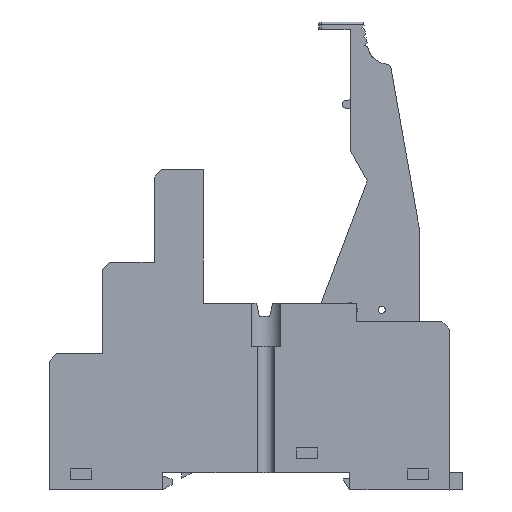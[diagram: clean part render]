
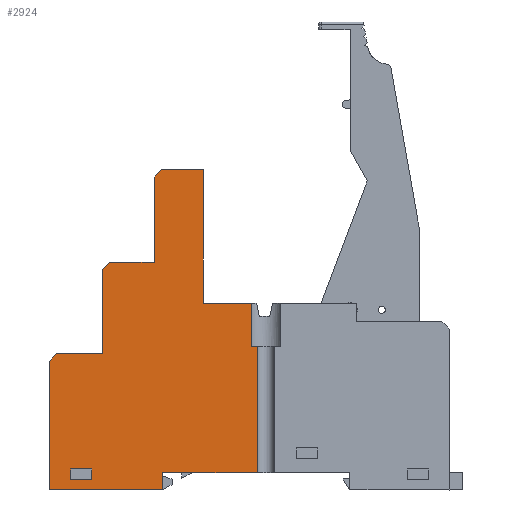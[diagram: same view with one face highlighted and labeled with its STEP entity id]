
A CAD part, front view. The second image highlights one B-rep face of the part: STEP entity #2924.
In plain terms, the highlighted planar face has unit normal (0, -1, 0).
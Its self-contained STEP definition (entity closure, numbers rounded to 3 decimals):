
#2=DIRECTION('',(0.707,0.,0.707));
#3=VECTOR('',#2,2.);
#4=CARTESIAN_POINT('',(-203.811,95.024,19.097));
#5=LINE('',#4,#3);
#6=DIRECTION('',(0.707,0.,0.707));
#7=VECTOR('',#6,2.);
#8=CARTESIAN_POINT('',(-193.811,95.024,36.497));
#9=LINE('',#8,#7);
#10=DIRECTION('',(0.707,0.,0.707));
#11=VECTOR('',#10,2.);
#12=CARTESIAN_POINT('',(-183.911,95.024,54.097));
#13=LINE('',#12,#11);
#14=DIRECTION('',(0.,0.,1.));
#15=VECTOR('',#14,24.);
#16=CARTESIAN_POINT('',(-164.311,95.024,-2.089));
#17=LINE('',#16,#15);
#27=DIRECTION('',(1.,0.,0.));
#28=VECTOR('',#27,1.166);
#29=CARTESIAN_POINT('',(-165.477,95.024,21.911));
#30=LINE('',#29,#28);
#69=DIRECTION('',(-1.,0.,0.));
#70=VECTOR('',#69,18.);
#71=CARTESIAN_POINT('',(-164.311,95.024,-2.089));
#72=LINE('',#71,#70);
#190=DIRECTION('',(0.,0.,-1.));
#191=VECTOR('',#190,8.183);
#192=CARTESIAN_POINT('',(-165.477,95.024,30.095));
#193=LINE('',#192,#191);
#276=DIRECTION('',(1.,0.,-0.002));
#277=VECTOR('',#276,9.134);
#278=CARTESIAN_POINT('',(-174.611,95.024,30.111));
#279=LINE('',#278,#277);
#297=DIRECTION('',(0.,0.,-1.));
#298=VECTOR('',#297,25.4);
#299=CARTESIAN_POINT('',(-174.611,95.024,55.511));
#300=LINE('',#299,#298);
#309=DIRECTION('',(1.,0.,0.));
#310=VECTOR('',#309,7.886);
#311=CARTESIAN_POINT('',(-182.497,95.024,55.511));
#312=LINE('',#311,#310);
#365=DIRECTION('',(0.,0.,1.));
#366=VECTOR('',#365,16.186);
#367=CARTESIAN_POINT('',(-183.911,95.024,37.911));
#368=LINE('',#367,#366);
#377=DIRECTION('',(1.,0.,0.));
#378=VECTOR('',#377,8.486);
#379=CARTESIAN_POINT('',(-192.397,95.024,37.911));
#380=LINE('',#379,#378);
#433=DIRECTION('',(0.,0.,1.));
#434=VECTOR('',#433,15.986);
#435=CARTESIAN_POINT('',(-193.811,95.024,20.511));
#436=LINE('',#435,#434);
#445=DIRECTION('',(1.,0.,0.));
#446=VECTOR('',#445,8.586);
#447=CARTESIAN_POINT('',(-202.397,95.024,20.511));
#448=LINE('',#447,#446);
#501=DIRECTION('',(0.,0.,1.));
#502=VECTOR('',#501,24.486);
#503=CARTESIAN_POINT('',(-203.811,95.024,-5.389));
#504=LINE('',#503,#502);
#521=DIRECTION('',(-1.,0.,0.));
#522=VECTOR('',#521,21.5);
#523=CARTESIAN_POINT('',(-182.311,95.024,-5.389));
#524=LINE('',#523,#522);
#545=DIRECTION('',(0.,0.,-1.));
#546=VECTOR('',#545,3.3);
#547=CARTESIAN_POINT('',(-182.311,95.024,-2.089));
#548=LINE('',#547,#546);
#2132=DIRECTION('',(1.,0.,0.));
#2133=VECTOR('',#2132,4.);
#2134=CARTESIAN_POINT('',(-199.811,95.024,
-1.389));
#2135=LINE('',#2134,#2133);
#2140=DIRECTION('',(0.,0.,-1.));
#2141=VECTOR('',#2140,2.);
#2142=CARTESIAN_POINT('',(-195.811,95.024,
-1.389));
#2143=LINE('',#2142,#2141);
#2152=DIRECTION('',(-1.,0.,0.));
#2153=VECTOR('',#2152,4.);
#2154=CARTESIAN_POINT('',(-195.811,95.024,
-3.389));
#2155=LINE('',#2154,#2153);
#2164=DIRECTION('',(0.,0.,1.));
#2165=VECTOR('',#2164,2.);
#2166=CARTESIAN_POINT('',(-199.811,95.024,
-3.389));
#2167=LINE('',#2166,#2165);
#2180=CARTESIAN_POINT('',(-164.311,95.024,
-2.089));
#2181=CARTESIAN_POINT('',(-164.311,95.024,21.911));
#2182=VERTEX_POINT('',#2180);
#2183=VERTEX_POINT('',#2181);
#2184=CARTESIAN_POINT('',(-165.477,95.024,21.911));
#2185=VERTEX_POINT('',#2184);
#2186=CARTESIAN_POINT('',(-165.477,95.024,30.095));
#2187=VERTEX_POINT('',#2186);
#2188=CARTESIAN_POINT('',(-174.611,95.024,30.111));
#2189=VERTEX_POINT('',#2188);
#2190=CARTESIAN_POINT('',(-174.611,95.024,55.511));
#2191=VERTEX_POINT('',#2190);
#2192=CARTESIAN_POINT('',(-182.497,95.024,55.511));
#2193=VERTEX_POINT('',#2192);
#2194=CARTESIAN_POINT('',(-183.911,95.024,54.097));
#2195=VERTEX_POINT('',#2194);
#2196=CARTESIAN_POINT('',(-183.911,95.024,37.911));
#2197=VERTEX_POINT('',#2196);
#2198=CARTESIAN_POINT('',(-192.397,95.024,37.911));
#2199=VERTEX_POINT('',#2198);
#2200=CARTESIAN_POINT('',(-193.811,95.024,36.497));
#2201=VERTEX_POINT('',#2200);
#2202=CARTESIAN_POINT('',(-193.811,95.024,20.511));
#2203=VERTEX_POINT('',#2202);
#2204=CARTESIAN_POINT('',(-202.397,95.024,20.511));
#2205=VERTEX_POINT('',#2204);
#2206=CARTESIAN_POINT('',(-203.811,95.024,19.097));
#2207=VERTEX_POINT('',#2206);
#2208=CARTESIAN_POINT('',(-203.811,95.024,
-5.389));
#2209=VERTEX_POINT('',#2208);
#2210=CARTESIAN_POINT('',(-182.311,95.024,
-5.389));
#2211=VERTEX_POINT('',#2210);
#2212=CARTESIAN_POINT('',(-182.311,95.024,
-2.089));
#2213=VERTEX_POINT('',#2212);
#2214=CARTESIAN_POINT('',(-199.811,95.024,
-1.389));
#2215=CARTESIAN_POINT('',(-195.811,95.024,
-1.389));
#2216=VERTEX_POINT('',#2214);
#2217=VERTEX_POINT('',#2215);
#2218=CARTESIAN_POINT('',(-195.811,95.024,
-3.389));
#2219=VERTEX_POINT('',#2218);
#2220=CARTESIAN_POINT('',(-199.811,95.024,
-3.389));
#2221=VERTEX_POINT('',#2220);
#2873=CARTESIAN_POINT('',(-184.061,95.024,25.061));
#2874=DIRECTION('',(0.,1.,0.));
#2875=DIRECTION('',(-1.,0.,0.));
#2876=AXIS2_PLACEMENT_3D('',#2873,#2874,#2875);
#2877=PLANE('',#2876);
#2879=ORIENTED_EDGE('',*,*,#2878,.F.);
#2881=ORIENTED_EDGE('',*,*,#2880,.T.);
#2883=ORIENTED_EDGE('',*,*,#2882,.T.);
#2885=ORIENTED_EDGE('',*,*,#2884,.T.);
#2887=ORIENTED_EDGE('',*,*,#2886,.T.);
#2889=ORIENTED_EDGE('',*,*,#2888,.T.);
#2891=ORIENTED_EDGE('',*,*,#2890,.T.);
#2893=ORIENTED_EDGE('',*,*,#2892,.T.);
#2895=ORIENTED_EDGE('',*,*,#2894,.T.);
#2897=ORIENTED_EDGE('',*,*,#2896,.T.);
#2899=ORIENTED_EDGE('',*,*,#2898,.T.);
#2901=ORIENTED_EDGE('',*,*,#2900,.T.);
#2903=ORIENTED_EDGE('',*,*,#2902,.T.);
#2905=ORIENTED_EDGE('',*,*,#2904,.T.);
#2907=ORIENTED_EDGE('',*,*,#2906,.T.);
#2909=ORIENTED_EDGE('',*,*,#2908,.T.);
#2911=ORIENTED_EDGE('',*,*,#2910,.T.);
#2912=EDGE_LOOP('',(#2879,#2881,#2883,#2885,#2887,#2889,#2891,#2893,#2895,#2897,
#2899,#2901,#2903,#2905,#2907,#2909,#2911));
#2913=FACE_OUTER_BOUND('',#2912,.F.);
#2915=ORIENTED_EDGE('',*,*,#2914,.F.);
#2917=ORIENTED_EDGE('',*,*,#2916,.F.);
#2919=ORIENTED_EDGE('',*,*,#2918,.F.);
#2921=ORIENTED_EDGE('',*,*,#2920,.F.);
#2922=EDGE_LOOP('',(#2915,#2917,#2919,#2921));
#2923=FACE_BOUND('',#2922,.F.);
#2924=ADVANCED_FACE('',(#2913,#2923),#2877,.F.);
#2878=EDGE_CURVE('',#2182,#2183,#17,.T.);
#2880=EDGE_CURVE('',#2182,#2213,#72,.T.);
#2882=EDGE_CURVE('',#2213,#2211,#548,.T.);
#2884=EDGE_CURVE('',#2211,#2209,#524,.T.);
#2886=EDGE_CURVE('',#2209,#2207,#504,.T.);
#2888=EDGE_CURVE('',#2207,#2205,#5,.T.);
#2890=EDGE_CURVE('',#2205,#2203,#448,.T.);
#2892=EDGE_CURVE('',#2203,#2201,#436,.T.);
#2894=EDGE_CURVE('',#2201,#2199,#9,.T.);
#2896=EDGE_CURVE('',#2199,#2197,#380,.T.);
#2898=EDGE_CURVE('',#2197,#2195,#368,.T.);
#2900=EDGE_CURVE('',#2195,#2193,#13,.T.);
#2902=EDGE_CURVE('',#2193,#2191,#312,.T.);
#2904=EDGE_CURVE('',#2191,#2189,#300,.T.);
#2906=EDGE_CURVE('',#2189,#2187,#279,.T.);
#2908=EDGE_CURVE('',#2187,#2185,#193,.T.);
#2910=EDGE_CURVE('',#2185,#2183,#30,.T.);
#2914=EDGE_CURVE('',#2216,#2217,#2135,.T.);
#2916=EDGE_CURVE('',#2221,#2216,#2167,.T.);
#2918=EDGE_CURVE('',#2219,#2221,#2155,.T.);
#2920=EDGE_CURVE('',#2217,#2219,#2143,.T.);
